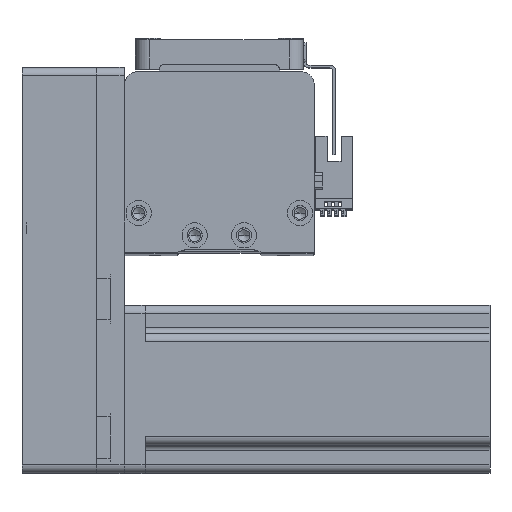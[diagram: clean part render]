
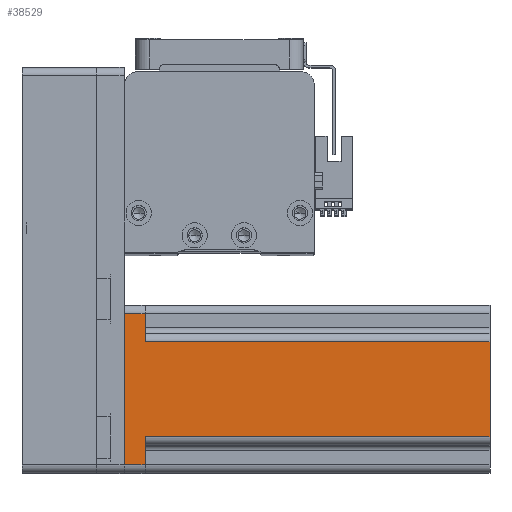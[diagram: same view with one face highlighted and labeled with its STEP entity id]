
A CAD part, top view. The second image highlights one B-rep face of the part: STEP entity #38529.
In plain terms, the highlighted planar face has unit normal (0, 0, 1) as drawn and (0, -1, 0) by its records, which use the part's own axes.
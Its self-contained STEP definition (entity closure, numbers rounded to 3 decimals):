
#241 = LINE ( 'NONE', #29711, #34356 ) ;
#3932 = DIRECTION ( 'NONE',  ( 0., 0., 1. ) ) ;
#4388 = CARTESIAN_POINT ( 'NONE',  ( -17., -30., 130.7 ) ) ;
#4477 = LINE ( 'NONE', #13381, #33950 ) ;
#6065 = CARTESIAN_POINT ( 'NONE',  ( -17., -30., 130.7 ) ) ;
#7009 = LINE ( 'NONE', #10784, #9095 ) ;
#8192 = CARTESIAN_POINT ( 'NONE',  ( 27., -30., 7.5 ) ) ;
#8223 = ORIENTED_EDGE ( 'NONE', *, *, #35087, .T. ) ;
#8389 = LINE ( 'NONE', #27038, #11444 ) ;
#9095 = VECTOR ( 'NONE', #20697, 1000. ) ;
#9702 = CARTESIAN_POINT ( 'NONE',  ( -20., -30., 7.5 ) ) ;
#9968 = DIRECTION ( 'NONE',  ( 0., 0., -1. ) ) ;
#10784 = CARTESIAN_POINT ( 'NONE',  ( 30., -30., 130.7 ) ) ;
#11444 = VECTOR ( 'NONE', #3932, 1000. ) ;
#12136 = LINE ( 'NONE', #9702, #19839 ) ;
#12614 = CARTESIAN_POINT ( 'NONE',  ( -17., -30., 7.5 ) ) ;
#13381 = CARTESIAN_POINT ( 'NONE',  ( 30., -30., 0. ) ) ;
#13437 = CARTESIAN_POINT ( 'NONE',  ( 20., -30., 7.5 ) ) ;
#13883 = EDGE_CURVE ( 'NONE', #28453, #26929, #33864, .T. ) ;
#13941 = EDGE_CURVE ( 'NONE', #20343, #26929, #12136, .T. ) ;
#14010 = EDGE_CURVE ( 'NONE', #20343, #35207, #241, .T. ) ;
#14456 = VERTEX_POINT ( 'NONE', #42439 ) ;
#14589 = LINE ( 'NONE', #32455, #32196 ) ;
#16245 = VECTOR ( 'NONE', #29166, 1000. ) ;
#16590 = LINE ( 'NONE', #13437, #41981 ) ;
#16654 = AXIS2_PLACEMENT_3D ( 'NONE', #16971, #40090, #20307 ) ;
#16971 = CARTESIAN_POINT ( 'NONE',  ( 30., -30., 130.7 ) ) ;
#17088 = VERTEX_POINT ( 'NONE', #30715 ) ;
#18321 = VERTEX_POINT ( 'NONE', #8192 ) ;
#19839 = VECTOR ( 'NONE', #42638, 1000. ) ;
#20017 = ORIENTED_EDGE ( 'NONE', *, *, #20526, .F. ) ;
#20307 = DIRECTION ( 'NONE',  ( -1., 0., 0. ) ) ;
#20343 = VERTEX_POINT ( 'NONE', #38923 ) ;
#20526 = EDGE_CURVE ( 'NONE', #28453, #37200, #7009, .T. ) ;
#20697 = DIRECTION ( 'NONE',  ( 1., 0., 0. ) ) ;
#22732 = ORIENTED_EDGE ( 'NONE', *, *, #24719, .T. ) ;
#24719 = EDGE_CURVE ( 'NONE', #17088, #18321, #14589, .T. ) ;
#25379 = EDGE_CURVE ( 'NONE', #18321, #14456, #16590, .T. ) ;
#25457 = EDGE_CURVE ( 'NONE', #14456, #37200, #8389, .T. ) ;
#25957 = DIRECTION ( 'NONE',  ( 0., 0., 1. ) ) ;
#26430 = DIRECTION ( 'NONE',  ( 1., 0., 0. ) ) ;
#26929 = VERTEX_POINT ( 'NONE', #12614 ) ;
#27038 = CARTESIAN_POINT ( 'NONE',  ( 17., -30., 130.7 ) ) ;
#27959 = ORIENTED_EDGE ( 'NONE', *, *, #14010, .T. ) ;
#28453 = VERTEX_POINT ( 'NONE', #4388 ) ;
#28555 = CARTESIAN_POINT ( 'NONE',  ( 17., -30., 130.7 ) ) ;
#29166 = DIRECTION ( 'NONE',  ( 0., 0., -1. ) ) ;
#29711 = CARTESIAN_POINT ( 'NONE',  ( -27., -30., 130.7 ) ) ;
#30715 = CARTESIAN_POINT ( 'NONE',  ( 27., -30., 0. ) ) ;
#32196 = VECTOR ( 'NONE', #25957, 1000. ) ;
#32455 = CARTESIAN_POINT ( 'NONE',  ( 27., -30., 130.7 ) ) ;
#33212 = ORIENTED_EDGE ( 'NONE', *, *, #13883, .T. ) ;
#33864 = LINE ( 'NONE', #6065, #16245 ) ;
#33950 = VECTOR ( 'NONE', #26430, 1000. ) ;
#34058 = CARTESIAN_POINT ( 'NONE',  ( -27., -30., 0. ) ) ;
#34356 = VECTOR ( 'NONE', #9968, 1000. ) ;
#35087 = EDGE_CURVE ( 'NONE', #35207, #17088, #4477, .T. ) ;
#35207 = VERTEX_POINT ( 'NONE', #34058 ) ;
#35717 = ORIENTED_EDGE ( 'NONE', *, *, #25379, .T. ) ;
#36539 = DIRECTION ( 'NONE',  ( -1., 0., 0. ) ) ;
#36624 = PLANE ( 'NONE',  #16654 ) ;
#37200 = VERTEX_POINT ( 'NONE', #28555 ) ;
#38529 = ADVANCED_FACE ( 'NONE', ( #40160 ), #36624, .F. ) ;
#38923 = CARTESIAN_POINT ( 'NONE',  ( -27., -30., 7.5 ) ) ;
#40090 = DIRECTION ( 'NONE',  ( 0., 1., 0. ) ) ;
#40160 = FACE_OUTER_BOUND ( 'NONE', #41396, .T. ) ;
#41269 = ORIENTED_EDGE ( 'NONE', *, *, #25457, .T. ) ;
#41396 = EDGE_LOOP ( 'NONE', ( #20017, #33212, #42861, #27959, #8223, #22732, #35717, #41269 ) ) ;
#41981 = VECTOR ( 'NONE', #36539, 1000. ) ;
#42439 = CARTESIAN_POINT ( 'NONE',  ( 17., -30., 7.5 ) ) ;
#42638 = DIRECTION ( 'NONE',  ( 1., 0., 0. ) ) ;
#42861 = ORIENTED_EDGE ( 'NONE', *, *, #13941, .F. ) ;
